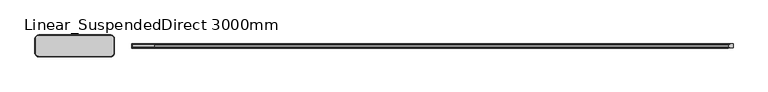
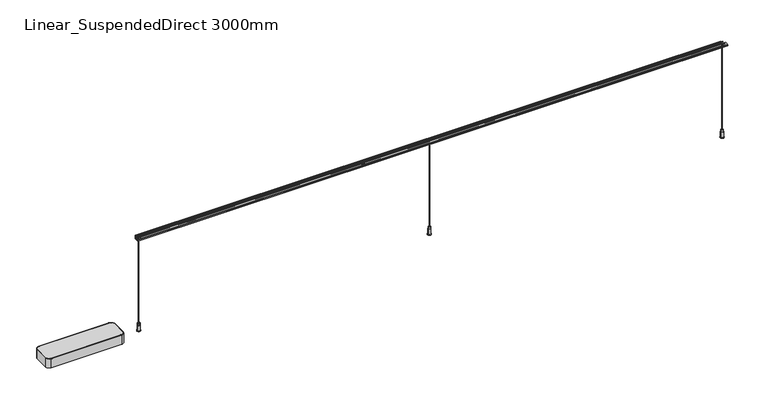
"""IFC4 building model written with IfcOpenShell, lengths in millimetres: light fixture geometry, ARTEMIDE-TurnAround-Linear_SuspendedDirect : Linear_SuspendedDirect 3000mm."""

from ifc_helpers import new_model, si_unit, point, frame, frame_2d, origin, origin_with_axes, place, context, project, spatial, polyline, circle_curve, ellipse_curve, trimmed, segment, composite_curve, outline, extrude, source, transform, mapped, element, save
from ifc_brep_helpers import plane_surface, cylinder_surface, revolved_surface, advanced_brep


def linear_suspendeddirect_3000mm_67b6cb3d(model_context):
    return source(origin(), model_context, "Body", "SolidModel", [
        advanced_brep(
        [(-109.8389602, -55.0879179, 0.0), (-470.1610045, -55.0879179, 0.0), (-490.1610045, -35.0879179, 0.0), (-490.1610045, 35.0879179, 0.0), (-470.1610045, 55.0879179, 0.0), (-109.8389602, 55.0879179, 0.0), (-89.8389602, 35.0879179, 0.0), (-89.8389602, -35.0879179, 0.0), (-109.8389602, -53.0879179, 0.0), (-91.8389602, -35.0879179, 0.0), (-91.8389602, 35.0879179, 0.0), (-109.8389602, 53.0879179, 0.0), (-470.1610045, 53.0879179, 0.0), (-488.1610045, 35.0879179, 0.0), (-488.1610045, -35.0879179, 0.0), (-470.1610045, -53.0879179, 0.0), (-488.1610045, -35.0879179, 50.0), (-470.1610045, -53.0879179, 50.0), (-109.8389602, -53.0879179, 50.0), (-91.8389602, -35.0879179, 50.0), (-91.8389602, 35.0879179, 50.0), (-109.8389602, 53.0879179, 50.0), (-470.1610045, 53.0879179, 50.0), (-488.1610045, 35.0879179, 50.0), (-109.8389602, -55.0879179, 48.0), (-470.1610045, -55.0879179, 48.0), (-490.1610045, -35.0879179, 48.0), (-490.1610045, 35.0879179, 48.0), (-470.1610045, 55.0879179, 48.0), (-109.8389602, 55.0879179, 48.0), (-89.8389602, 35.0879179, 48.0), (-89.8389602, -35.0879179, 48.0), (-109.8389602, -53.0879179, 48.0), (-91.8389602, -35.0879179, 48.0), (-91.8389602, 35.0879179, 48.0), (-109.8389602, 53.0879179, 48.0), (-470.1610045, 53.0879179, 48.0), (-488.1610045, 35.0879179, 48.0), (-488.1610045, -35.0879179, 48.0), (-470.1610045, -53.0879179, 48.0)],
        [
            (0, 1),
            (1, 2, circle_curve(frame((-470.1610045, -35.0879179, 0.0), z_axis=(0.0, 0.0, -1.0), x_axis=(-1.0, 0.0, 0.0)), 20.0)),
            (2, 3),
            (3, 4, circle_curve(frame((-470.1610045, 35.0879179, 0.0), z_axis=(0.0, 0.0, -1.0), x_axis=(-1.0, 0.0, 0.0)), 20.0)),
            (4, 5),
            (5, 6, circle_curve(frame((-109.8389602, 35.0879179, 0.0), z_axis=(0.0, 0.0, -1.0), x_axis=(-1.0, 0.0, 0.0)), 20.0)),
            (6, 7),
            (7, 0, circle_curve(frame((-109.8389602, -35.0879179, 0.0), z_axis=(0.0, 0.0, -1.0), x_axis=(-1.0, 0.0, 0.0)), 20.0)),
            (8, 9, circle_curve(frame((-109.8389602, -35.0879179, 0.0), z_axis=(0.0, 0.0, 1.0), x_axis=(-1.0, 0.0, 0.0)), 18.0)),
            (9, 10),
            (10, 11, circle_curve(frame((-109.8389602, 35.0879179, 0.0), z_axis=(0.0, 0.0, 1.0), x_axis=(-1.0, 0.0, 0.0)), 18.0)),
            (11, 12),
            (12, 13, circle_curve(frame((-470.1610045, 35.0879179, 0.0), z_axis=(0.0, 0.0, 1.0), x_axis=(-1.0, 0.0, 0.0)), 18.0)),
            (13, 14),
            (14, 15, circle_curve(frame((-470.1610045, -35.0879179, 0.0), z_axis=(0.0, 0.0, 1.0), x_axis=(-1.0, 0.0, 0.0)), 18.0)),
            (15, 8),
            (16, 17, circle_curve(frame((-470.1610045, -35.0879179, 50.0), z_axis=(0.0, 0.0, 1.0), x_axis=(-1.0, 0.0, 0.0)), 18.0)),
            (17, 18),
            (18, 19, circle_curve(frame((-109.8389602, -35.0879179, 50.0), z_axis=(0.0, 0.0, 1.0), x_axis=(0.0, -1.0, 0.0)), 18.0)),
            (19, 20),
            (20, 21, circle_curve(frame((-109.8389602, 35.0879179, 50.0), z_axis=(0.0, 0.0, 1.0), x_axis=(1.0, 0.0, 0.0)), 18.0)),
            (21, 22),
            (22, 23, circle_curve(frame((-470.1610045, 35.0879179, 50.0), z_axis=(0.0, 0.0, 1.0), x_axis=(0.0, 1.0, 0.0)), 18.0)),
            (23, 16),
            (0, 24),
            (24, 25),
            (25, 1),
            (2, 26),
            (26, 27),
            (27, 3),
            (4, 28),
            (28, 29),
            (29, 5),
            (6, 30),
            (30, 31),
            (31, 7),
            (25, 26, circle_curve(frame((-470.1610045, -35.0879179, 48.0), z_axis=(0.0, 0.0, -1.0), x_axis=(-1.0, 0.0, 0.0)), 20.0)),
            (27, 28, circle_curve(frame((-470.1610045, 35.0879179, 48.0), z_axis=(0.0, 0.0, -1.0), x_axis=(-1.0, 0.0, 0.0)), 20.0)),
            (29, 30, circle_curve(frame((-109.8389602, 35.0879179, 48.0), z_axis=(0.0, 0.0, -1.0), x_axis=(-1.0, 0.0, 0.0)), 20.0)),
            (31, 24, circle_curve(frame((-109.8389602, -35.0879179, 48.0), z_axis=(0.0, 0.0, -1.0), x_axis=(-1.0, 0.0, 0.0)), 20.0)),
            (8, 32),
            (32, 33, circle_curve(frame((-109.8389602, -35.0879179, 48.0), z_axis=(0.0, 0.0, 1.0), x_axis=(-1.0, 0.0, 0.0)), 18.0)),
            (33, 9),
            (33, 34),
            (34, 10),
            (34, 35, circle_curve(frame((-109.8389602, 35.0879179, 48.0), z_axis=(0.0, 0.0, 1.0), x_axis=(-1.0, 0.0, 0.0)), 18.0)),
            (35, 11),
            (35, 36),
            (36, 12),
            (36, 37, circle_curve(frame((-470.1610045, 35.0879179, 48.0), z_axis=(0.0, 0.0, 1.0), x_axis=(-1.0, 0.0, 0.0)), 18.0)),
            (37, 13),
            (37, 38),
            (38, 14),
            (38, 39, circle_curve(frame((-470.1610045, -35.0879179, 48.0), z_axis=(0.0, 0.0, 1.0), x_axis=(-1.0, 0.0, 0.0)), 18.0)),
            (39, 15),
            (39, 32),
            (25, 17, circle_curve(frame((-470.1610045, -53.0879179, 48.0), z_axis=(-1.0, 0.0, 0.0), x_axis=(0.0, 1.0, 0.0)), 2.0)),
            (16, 26, circle_curve(frame((-488.1610045, -35.0879179, 48.0), z_axis=(0.0, -1.0, 0.0), x_axis=(1.0, 0.0, 0.0)), 2.0)),
            (24, 18, circle_curve(frame((-109.8389602, -53.0879179, 48.0), z_axis=(-1.0, 0.0, 0.0), x_axis=(0.0, 1.0, 0.0)), 2.0)),
            (31, 19, circle_curve(frame((-91.8389602, -35.0879179, 48.0), z_axis=(0.0, -1.0, 0.0), x_axis=(-1.0, 0.0, 0.0)), 2.0)),
            (30, 20, circle_curve(frame((-91.8389602, 35.0879179, 48.0), z_axis=(0.0, -1.0, 0.0), x_axis=(-1.0, 0.0, 0.0)), 2.0)),
            (29, 21, circle_curve(frame((-109.8389602, 53.0879179, 48.0), z_axis=(1.0, 0.0, 0.0), x_axis=(0.0, -1.0, 0.0)), 2.0)),
            (28, 22, circle_curve(frame((-470.1610045, 53.0879179, 48.0), z_axis=(1.0, 0.0, 0.0), x_axis=(0.0, -1.0, 0.0)), 2.0)),
            (27, 23, circle_curve(frame((-488.1610045, 35.0879179, 48.0), z_axis=(0.0, 1.0, 0.0), x_axis=(1.0, 0.0, 0.0)), 2.0)),
        ],
        [
            plane_surface(frame((-470.1610045, -55.0879179, 0.0), z_axis=(0.0, 0.0, -1.0), x_axis=(-1.0, 0.0, 0.0))),
            plane_surface(frame((-470.1610045, -55.0879179, 50.0), z_axis=(0.0, 0.0, 1.0), x_axis=(1.0, 0.0, 0.0))),
            plane_surface(frame((-109.8389602, -55.0879179, 0.0), z_axis=(0.0, -1.0, 0.0), x_axis=(0.0, 0.0, 1.0))),
            plane_surface(frame((-490.1610045, -35.0879179, 0.0), z_axis=(-1.0, 0.0, 0.0), x_axis=(0.0, 0.0, 1.0))),
            plane_surface(frame((-470.1610045, 55.0879179, 0.0), z_axis=(0.0, 1.0, 0.0), x_axis=(0.0, 0.0, 1.0))),
            plane_surface(frame((-89.8389602, 35.0879179, 0.0), z_axis=(1.0, 0.0, 0.0), x_axis=(0.0, 0.0, 1.0))),
            cylinder_surface(frame((-470.1610045, -35.0879179, 50.0), z_axis=(0.0, 0.0, -1.0), x_axis=(-1.0, 0.0, 0.0)), 20.0),
            cylinder_surface(frame((-470.1610045, 35.0879179, 50.0), z_axis=(0.0, 0.0, -1.0), x_axis=(-1.0, 0.0, 0.0)), 20.0),
            cylinder_surface(frame((-109.8389602, 35.0879179, 50.0), z_axis=(0.0, 0.0, -1.0), x_axis=(-1.0, 0.0, 0.0)), 20.0),
            cylinder_surface(frame((-109.8389602, -35.0879179, 50.0), z_axis=(0.0, 0.0, -1.0), x_axis=(-1.0, 0.0, 0.0)), 20.0),
            revolved_surface(polyline([(-127.8389602, -35.0879179, 48.0), (-127.8389602, -35.0879179, 0.0)]), (-109.8389602, -35.0879179, 0.0), (0.0, 0.0, 1.0)),
            plane_surface(frame((-91.8389602, -35.0879179, 0.0), z_axis=(-1.0, 0.0, 0.0), x_axis=(0.0, 0.0, 1.0))),
            revolved_surface(polyline([(-127.8389602, 35.0879179, 48.0), (-127.8389602, 35.0879179, 0.0)]), (-109.8389602, 35.0879179, 0.0), (0.0, 0.0, 1.0)),
            plane_surface(frame((-109.8389602, 53.0879179, 0.0), z_axis=(0.0, -1.0, 0.0), x_axis=(0.0, 0.0, 1.0))),
            revolved_surface(polyline([(-488.1610045, 35.0879179, 48.0), (-488.1610045, 35.0879179, 0.0)]), (-470.1610045, 35.0879179, 0.0), (0.0, 0.0, 1.0)),
            plane_surface(frame((-488.1610045, 35.0879179, 0.0), z_axis=(1.0, 0.0, 0.0), x_axis=(0.0, 0.0, 1.0))),
            revolved_surface(polyline([(-488.1610045, -35.0879179, 48.0), (-488.1610045, -35.0879179, 0.0)]), (-470.1610045, -35.0879179, 0.0), (0.0, 0.0, 1.0)),
            plane_surface(frame((-470.1610045, -53.0879179, 0.0), z_axis=(0.0, 1.0, 0.0), x_axis=(0.0, 0.0, 1.0))),
            plane_surface(frame((-470.1610045, -55.0879179, 48.0), z_axis=(0.0, 0.0, -1.0), x_axis=(-1.0, 0.0, 0.0))),
            revolved_surface(trimmed(ellipse_curve(frame((-488.1610045, -35.0879179, 48.0), z_axis=(0.0, 1.0, 0.0), x_axis=(1.0, 0.0, 0.0)), 2.0, 2.0), [point((-490.1610045, -35.0879179, 48.0))], [point((-488.1610045, -35.0879179, 50.0))], True, "CARTESIAN"), (-470.1610045, -35.0879179, 50.0), (0.0, 0.0, 1.0)),
            cylinder_surface(frame((-470.1610045, -53.0879179, 48.0), z_axis=(1.0, 0.0, 0.0), x_axis=(0.0, 1.0, 0.0)), 2.0),
            revolved_surface(trimmed(ellipse_curve(frame((-109.8389602, -53.0879179, 48.0), z_axis=(-1.0, 0.0, 0.0), x_axis=(0.0, 1.0, 0.0)), 2.0, 2.0), [point((-109.8389602, -55.0879179, 48.0))], [point((-109.8389602, -53.0879179, 50.0))], True, "CARTESIAN"), (-109.8389602, -35.0879179, 50.0), (0.0, 0.0, 1.0)),
            cylinder_surface(frame((-91.8389602, -35.0879179, 48.0), z_axis=(0.0, 1.0, 0.0), x_axis=(-1.0, 0.0, 0.0)), 2.0),
            revolved_surface(trimmed(ellipse_curve(frame((-91.8389602, 35.0879179, 48.0), z_axis=(0.0, -1.0, 0.0), x_axis=(-1.0, 0.0, 0.0)), 2.0, 2.0), [point((-89.8389602, 35.0879179, 48.0))], [point((-91.8389602, 35.0879179, 50.0))], True, "CARTESIAN"), (-109.8389602, 35.0879179, 50.0), (0.0, 0.0, 1.0)),
            cylinder_surface(frame((-109.8389602, 53.0879179, 48.0), z_axis=(-1.0, 0.0, 0.0), x_axis=(0.0, -1.0, 0.0)), 2.0),
            revolved_surface(trimmed(ellipse_curve(frame((-470.1610045, 53.0879179, 48.0), z_axis=(1.0, 0.0, 0.0), x_axis=(0.0, -1.0, 0.0)), 2.0, 2.0), [point((-470.1610045, 55.0879179, 48.0))], [point((-470.1610045, 53.0879179, 50.0))], True, "CARTESIAN"), (-470.1610045, 35.0879179, 50.0), (0.0, 0.0, 1.0)),
            cylinder_surface(frame((-488.1610045, 35.0879179, 48.0), z_axis=(0.0, -1.0, 0.0), x_axis=(1.0, 0.0, 0.0)), 2.0),
        ],
        [
            (0, [[1, 2, 3, 4, 5, 6, 7, 8], [9, 10, 11, 12, 13, 14, 15, 16]]),
            (1, [[17, 18, 19, 20, 21, 22, 23, 24]]),
            (2, [[-1, 25, 26, 27]]),
            (3, [[-3, 28, 29, 30]]),
            (4, [[-5, 31, 32, 33]]),
            (5, [[-7, 34, 35, 36]]),
            (6, [[-2, -27, 37, -28]]),
            (7, [[-4, -30, 38, -31]]),
            (8, [[-6, -33, 39, -34]]),
            (9, [[-8, -36, 40, -25]]),
            (10, [[-9, 41, 42, 43]]),
            (11, [[-10, -43, 44, 45]]),
            (12, [[-11, -45, 46, 47]]),
            (13, [[-12, -47, 48, 49]]),
            (14, [[-13, -49, 50, 51]]),
            (15, [[-14, -51, 52, 53]]),
            (16, [[-15, -53, 54, 55]]),
            (17, [[-16, -55, 56, -41]]),
            (18, [[-42, -56, -54, -52, -50, -48, -46, -44]]),
            (19, [[57, -17, 58, -37]]),
            (20, [[-57, -26, 59, -18]]),
            (21, [[-59, -40, 60, -19]]),
            (22, [[-60, -35, 61, -20]]),
            (23, [[-61, -39, 62, -21]]),
            (24, [[-62, -32, 63, -22]]),
            (25, [[-63, -38, 64, -23]]),
            (26, [[-58, -24, -64, -29]]),
        ],
    ),
        extrude(outline(polyline([(110.0, 6.3498693), (110.0, -6.3499287), (0.0, -6.3499287), (0.0, 6.3498693), (110.0, 6.3498693)])), frame((0.0, 0.0, 501.1503638), z_axis=(0.0, 0.0, 1.0), x_axis=(1.0, 0.0, 0.0)), (0.0, 0.0, 1.0), 10.8496362),
        extrude(outline(composite_curve([segment(polyline([(9.9996331, 500.9503638), (9.9996331, 511.4002115), (7.9680122, 511.4001219), (7.9680122, 510.400149), (7.1680122, 510.400149), (7.1680122, 511.2500635), (6.3498693, 511.2500635), (6.3498693, 512.5), (11.0170651, 512.5), (11.0170651, 502.1565084)]), True, "CONTINUOUS"), segment(trimmed(circle_curve(frame_2d((18.0138248, 500.1749675)), 7.2719427), [point((11.0170651, 502.1565084))], [point((11.0170651, 498.1934267))], True, "CARTESIAN"), True, "CONTINUOUS"), segment(polyline([(11.0170651, 498.1934267), (11.0170651, 494.2003595), (10.000004, 494.2003595), (10.000004, 496.2003645), (6.3499287, 496.2003645), (6.3499287, 497.4503421), (9.4999904, 497.4503421), (9.4999904, 499.500364), (-9.4999904, 499.500364), (-9.4999904, 497.4503421), (-6.3499287, 497.4503421), (-6.3499287, 496.2003645), (-10.000004, 496.2003645), (-10.000004, 494.2003595), (-11.0170651, 494.2003595), (-11.0170651, 498.1934267)]), True, "CONTINUOUS"), segment(trimmed(circle_curve(frame_2d((-18.0138248, 500.1749675)), 7.2719427), [point((-11.0170651, 498.1934267))], [point((-11.0170651, 502.1565084))], True, "CARTESIAN"), True, "CONTINUOUS"), segment(polyline([(-11.0170651, 502.1565084), (-11.0170651, 512.5), (-6.3498693, 512.5), (-6.3498693, 511.2500635), (-7.1680122, 511.2500635), (-7.1680122, 510.400149), (-7.9680122, 510.400149), (-7.9680122, 511.4001219), (-9.9996331, 511.4002115), (-9.9996331, 500.9503638), (-7.9680122, 500.9503638), (-7.9680122, 501.9503638), (-7.1680122, 501.9503638), (-7.1680122, 501.1503638), (7.1680122, 501.1503638), (7.1680122, 501.9503638), (7.9680122, 501.9503638), (7.9680122, 500.9503638), (9.9996331, 500.9503638)]), True, "CONTINUOUS")], self_intersect=False)), frame((0.0, 0.0, 0.0), z_axis=(1.0, 0.0, 0.0), x_axis=(0.0, 1.0, 0.0)), (0.0, 0.0, 1.0), 3000.0),
        extrude(outline(polyline([(511.2500635, 3003.6635812), (511.2500635, 2996.3364188), (510.4109032, 2991.5773043), (502.004045, 2991.5773043), (501.1503638, 2996.418771), (501.1503638, 3003.581229), (502.004045, 3008.4226957), (510.3818614, 3008.4226957), (511.2500635, 3003.6635812)])), frame((0.0, -10.0, 0.0), z_axis=(0.0, 1.0, 0.0), x_axis=(0.0, 0.0, 1.0)), (0.0, 0.0, 1.0), 1.3991753),
        extrude(outline(composite_curve([segment(trimmed(circle_curve(frame_2d((10.0, 0.0)), 1.0), [point((11.0, 0.0))], [point((9.0, 0.0))], False, "CARTESIAN"), True, "CONTINUOUS"), segment(trimmed(circle_curve(frame_2d((10.0, 0.0)), 1.0), [point((9.0, 0.0))], [point((11.0, 0.0))], False, "CARTESIAN"), True, "CONTINUOUS")], self_intersect=False)), origin_with_axes(), (0.0, 0.0, 1.0), 500.0),
        advanced_brep(
        [(9.0, 0.0, 41.0209548), (11.0, 0.0, 41.0209548), (15.8902255, 0.0, 41.0209548), (4.1097745, 0.0, 41.0209548), (9.0, 0.0, 0.0), (11.0, 0.0, 0.0), (1.0476301, 0.0, 0.0), (18.9523699, 0.0, 0.0), (1.0476301, 0.0, 2.0209548), (18.9523699, 0.0, 2.0209548), (3.0476301, 0.0, 2.0209548), (16.9523699, 0.0, 2.0209548), (3.0476301, 0.0, 30.9721976), (16.9523699, 0.0, 30.9721976), (4.1097745, 0.0, 30.9721976), (15.8902255, 0.0, 30.9721976)],
        [
            (0, 1, circle_curve(frame((10.0, 0.0, 41.0209548), z_axis=(0.0, 0.0, -1.0), x_axis=(1.0, 0.0, 0.0)), 1.0)),
            (1, 2),
            (2, 3, circle_curve(frame((10.0, 0.0, 41.0209548), z_axis=(0.0, 0.0, 1.0), x_axis=(1.0, 0.0, 0.0)), 5.8902255)),
            (3, 0),
            (1, 0, circle_curve(frame((10.0, 0.0, 41.0209548), z_axis=(0.0, 0.0, -1.0), x_axis=(1.0, 0.0, 0.0)), 1.0)),
            (3, 2, circle_curve(frame((10.0, 0.0, 41.0209548), z_axis=(0.0, 0.0, 1.0), x_axis=(1.0, 0.0, 0.0)), 5.8902255)),
            (4, 5, circle_curve(frame((10.0, 0.0, 0.0), z_axis=(0.0, 0.0, -1.0), x_axis=(1.0, 0.0, 0.0)), 1.0)),
            (5, 1),
            (0, 4),
            (5, 4, circle_curve(frame((10.0, 0.0, 0.0), z_axis=(0.0, 0.0, -1.0), x_axis=(1.0, 0.0, 0.0)), 1.0)),
            (6, 7, circle_curve(frame((10.0, 0.0, 0.0), z_axis=(0.0, 0.0, -1.0), x_axis=(1.0, 0.0, 0.0)), 8.9523699)),
            (7, 5),
            (4, 6),
            (7, 6, circle_curve(frame((10.0, 0.0, 0.0), z_axis=(0.0, 0.0, -1.0), x_axis=(1.0, 0.0, 0.0)), 8.9523699)),
            (8, 9, circle_curve(frame((10.0, 0.0, 2.0209548), z_axis=(0.0, 0.0, -1.0), x_axis=(1.0, 0.0, 0.0)), 8.9523699)),
            (9, 7),
            (6, 8),
            (9, 8, circle_curve(frame((10.0, 0.0, 2.0209548), z_axis=(0.0, 0.0, -1.0), x_axis=(1.0, 0.0, 0.0)), 8.9523699)),
            (10, 11, circle_curve(frame((10.0, 0.0, 2.0209548), z_axis=(0.0, 0.0, -1.0), x_axis=(1.0, 0.0, 0.0)), 6.9523699)),
            (11, 9),
            (8, 10),
            (11, 10, circle_curve(frame((10.0, 0.0, 2.0209548), z_axis=(0.0, 0.0, -1.0), x_axis=(1.0, 0.0, 0.0)), 6.9523699)),
            (12, 13, circle_curve(frame((10.0, 0.0, 30.9721976), z_axis=(0.0, 0.0, -1.0), x_axis=(1.0, 0.0, 0.0)), 6.9523699)),
            (13, 11),
            (10, 12),
            (13, 12, circle_curve(frame((10.0, 0.0, 30.9721976), z_axis=(0.0, 0.0, -1.0), x_axis=(1.0, 0.0, 0.0)), 6.9523699)),
            (14, 15, circle_curve(frame((10.0, 0.0, 30.9721976), z_axis=(0.0, 0.0, -1.0), x_axis=(1.0, 0.0, 0.0)), 5.8902255)),
            (15, 13),
            (12, 14),
            (15, 14, circle_curve(frame((10.0, 0.0, 30.9721976), z_axis=(0.0, 0.0, -1.0), x_axis=(1.0, 0.0, 0.0)), 5.8902255)),
            (2, 15),
            (14, 3),
        ],
        [
            plane_surface(frame((10.0, 0.0, 41.0209548), z_axis=(0.0, 0.0, 1.0), x_axis=(1.0, 0.0, 0.0))),
            revolved_surface(polyline([(11.0, 0.0, 41.02095480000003), (11.0, 0.0, 0.0)]), (10.0, 0.0, 391.16642), (0.0, 0.0, 1.0)),
            plane_surface(frame((10.0, 0.0, 0.0), z_axis=(0.0, 0.0, -1.0), x_axis=(1.0, 0.0, 0.0))),
            cylinder_surface(frame((10.0, 0.0, 391.16642), z_axis=(0.0, 0.0, 1.0), x_axis=(1.0, 0.0, 0.0)), 8.9523699),
            plane_surface(frame((10.0, 0.0, 2.0209548), z_axis=(0.0, 0.0, 1.0), x_axis=(1.0, 0.0, 0.0))),
            cylinder_surface(frame((10.0, 0.0, 391.16642), z_axis=(0.0, 0.0, 1.0), x_axis=(1.0, 0.0, 0.0)), 6.9523699),
            plane_surface(frame((10.0, 0.0, 30.9721976), z_axis=(0.0, 0.0, 1.0), x_axis=(1.0, 0.0, 0.0))),
            cylinder_surface(frame((10.0, 0.0, 391.16642), z_axis=(0.0, 0.0, 1.0), x_axis=(1.0, 0.0, 0.0)), 5.8902255),
        ],
        [
            (0, [[1, 2, 3, 4]]),
            (0, [[5, -4, 6, -2]]),
            (1, [[7, 8, -1, 9]]),
            (1, [[10, -9, -5, -8]]),
            (2, [[11, 12, -7, 13]]),
            (2, [[14, -13, -10, -12]]),
            (3, [[15, 16, -11, 17]]),
            (3, [[18, -17, -14, -16]]),
            (4, [[19, 20, -15, 21]]),
            (4, [[22, -21, -18, -20]]),
            (5, [[23, 24, -19, 25]]),
            (5, [[26, -25, -22, -24]]),
            (6, [[27, 28, -23, 29]]),
            (6, [[30, -29, -26, -28]]),
            (7, [[-3, 31, -27, 32]]),
            (7, [[-6, -32, -30, -31]]),
        ],
    ),
        extrude(outline(polyline([(2975.0, -9.5), (2975.0, 9.5), (3025.0, 9.5), (3025.0, -9.5), (2975.0, -9.5)])), frame((0.0, 0.0, 494.2), z_axis=(0.0, 0.0, 1.0), x_axis=(1.0, 0.0, 0.0)), (0.0, 0.0, 1.0), 2.0),
        extrude(outline(polyline([(1490.0, -9.5), (1490.0, 9.5), (1510.0, 9.5), (1510.0, -9.5), (1490.0, -9.5)])), frame((0.0, 0.0, 494.2), z_axis=(0.0, 0.0, 1.0), x_axis=(1.0, 0.0, 0.0)), (0.0, 0.0, 1.0), 2.0),
        extrude(outline(polyline([(0.0, -9.5), (0.0, 9.5), (20.0, 9.5), (20.0, -9.5), (0.0, -9.5)])), frame((0.0, 0.0, 494.2), z_axis=(0.0, 0.0, 1.0), x_axis=(1.0, 0.0, 0.0)), (0.0, 0.0, 1.0), 2.0),
        extrude(outline(composite_curve([segment(trimmed(circle_curve(frame_2d((3000.0, 0.0)), 1.0), [point((3001.0, 0.0))], [point((2999.0, 0.0))], False, "CARTESIAN"), True, "CONTINUOUS"), segment(trimmed(circle_curve(frame_2d((3000.0, 0.0)), 1.0), [point((2999.0, 0.0))], [point((3001.0, 0.0))], False, "CARTESIAN"), True, "CONTINUOUS")], self_intersect=False)), origin_with_axes(), (0.0, 0.0, 1.0), 500.0),
        extrude(outline(composite_curve([segment(trimmed(circle_curve(frame_2d((1500.0, 0.0)), 1.0), [point((1501.0, 0.0))], [point((1499.0, 0.0))], False, "CARTESIAN"), True, "CONTINUOUS"), segment(trimmed(circle_curve(frame_2d((1500.0, 0.0)), 1.0), [point((1499.0, 0.0))], [point((1501.0, 0.0))], False, "CARTESIAN"), True, "CONTINUOUS")], self_intersect=False)), origin_with_axes(), (0.0, 0.0, 1.0), 500.0),
        advanced_brep(
        [(2999.0, 0.0, 41.0209548), (3001.0, 0.0, 41.0209548), (3005.8902255, 0.0, 41.0209548), (2994.1097745, 0.0, 41.0209548), (2999.0, 0.0, 0.0), (3001.0, 0.0, 0.0), (2991.0476301, 0.0, 0.0), (3008.9523699, 0.0, 0.0), (2991.0476301, 0.0, 2.0209548), (3008.9523699, 0.0, 2.0209548), (2993.0476301, 0.0, 2.0209548), (3006.9523699, 0.0, 2.0209548), (2993.0476301, 0.0, 30.9721976), (3006.9523699, 0.0, 30.9721976), (2994.1097745, 0.0, 30.9721976), (3005.8902255, 0.0, 30.9721976)],
        [
            (0, 1, circle_curve(frame((3000.0, 0.0, 41.0209548), z_axis=(0.0, 0.0, -1.0), x_axis=(1.0, 0.0, 0.0)), 1.0)),
            (1, 2),
            (2, 3, circle_curve(frame((3000.0, 0.0, 41.0209548), z_axis=(0.0, 0.0, 1.0), x_axis=(1.0, 0.0, 0.0)), 5.8902255)),
            (3, 0),
            (1, 0, circle_curve(frame((3000.0, 0.0, 41.0209548), z_axis=(0.0, 0.0, -1.0), x_axis=(1.0, 0.0, 0.0)), 1.0)),
            (3, 2, circle_curve(frame((3000.0, 0.0, 41.0209548), z_axis=(0.0, 0.0, 1.0), x_axis=(1.0, 0.0, 0.0)), 5.8902255)),
            (4, 5, circle_curve(frame((3000.0, 0.0, 0.0), z_axis=(0.0, 0.0, -1.0), x_axis=(1.0, 0.0, 0.0)), 1.0)),
            (5, 1),
            (0, 4),
            (5, 4, circle_curve(frame((3000.0, 0.0, 0.0), z_axis=(0.0, 0.0, -1.0), x_axis=(1.0, 0.0, 0.0)), 1.0)),
            (6, 7, circle_curve(frame((3000.0, 0.0, 0.0), z_axis=(0.0, 0.0, -1.0), x_axis=(1.0, 0.0, 0.0)), 8.9523699)),
            (7, 5),
            (4, 6),
            (7, 6, circle_curve(frame((3000.0, 0.0, 0.0), z_axis=(0.0, 0.0, -1.0), x_axis=(1.0, 0.0, 0.0)), 8.9523699)),
            (8, 9, circle_curve(frame((3000.0, 0.0, 2.0209548), z_axis=(0.0, 0.0, -1.0), x_axis=(1.0, 0.0, 0.0)), 8.9523699)),
            (9, 7),
            (6, 8),
            (9, 8, circle_curve(frame((3000.0, 0.0, 2.0209548), z_axis=(0.0, 0.0, -1.0), x_axis=(1.0, 0.0, 0.0)), 8.9523699)),
            (10, 11, circle_curve(frame((3000.0, 0.0, 2.0209548), z_axis=(0.0, 0.0, -1.0), x_axis=(1.0, 0.0, 0.0)), 6.9523699)),
            (11, 9),
            (8, 10),
            (11, 10, circle_curve(frame((3000.0, 0.0, 2.0209548), z_axis=(0.0, 0.0, -1.0), x_axis=(1.0, 0.0, 0.0)), 6.9523699)),
            (12, 13, circle_curve(frame((3000.0, 0.0, 30.9721976), z_axis=(0.0, 0.0, -1.0), x_axis=(1.0, 0.0, 0.0)), 6.9523699)),
            (13, 11),
            (10, 12),
            (13, 12, circle_curve(frame((3000.0, 0.0, 30.9721976), z_axis=(0.0, 0.0, -1.0), x_axis=(1.0, 0.0, 0.0)), 6.9523699)),
            (14, 15, circle_curve(frame((3000.0, 0.0, 30.9721976), z_axis=(0.0, 0.0, -1.0), x_axis=(1.0, 0.0, 0.0)), 5.8902255)),
            (15, 13),
            (12, 14),
            (15, 14, circle_curve(frame((3000.0, 0.0, 30.9721976), z_axis=(0.0, 0.0, -1.0), x_axis=(1.0, 0.0, 0.0)), 5.8902255)),
            (2, 15),
            (14, 3),
        ],
        [
            plane_surface(frame((3000.0, 0.0, 41.0209548), z_axis=(0.0, 0.0, 1.0), x_axis=(1.0, 0.0, 0.0))),
            revolved_surface(polyline([(3001.0, 0.0, 41.02095480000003), (3001.0, 0.0, 0.0)]), (3000.0, 0.0, 391.16642), (0.0, 0.0, 1.0)),
            plane_surface(frame((3000.0, 0.0, 0.0), z_axis=(0.0, 0.0, -1.0), x_axis=(1.0, 0.0, 0.0))),
            cylinder_surface(frame((3000.0, 0.0, 391.16642), z_axis=(0.0, 0.0, 1.0), x_axis=(1.0, 0.0, 0.0)), 8.9523699),
            plane_surface(frame((3000.0, 0.0, 2.0209548), z_axis=(0.0, 0.0, 1.0), x_axis=(1.0, 0.0, 0.0))),
            cylinder_surface(frame((3000.0, 0.0, 391.16642), z_axis=(0.0, 0.0, 1.0), x_axis=(1.0, 0.0, 0.0)), 6.9523699),
            plane_surface(frame((3000.0, 0.0, 30.9721976), z_axis=(0.0, 0.0, 1.0), x_axis=(1.0, 0.0, 0.0))),
            cylinder_surface(frame((3000.0, 0.0, 391.16642), z_axis=(0.0, 0.0, 1.0), x_axis=(1.0, 0.0, 0.0)), 5.8902255),
        ],
        [
            (0, [[1, 2, 3, 4]]),
            (0, [[5, -4, 6, -2]]),
            (1, [[7, 8, -1, 9]]),
            (1, [[10, -9, -5, -8]]),
            (2, [[11, 12, -7, 13]]),
            (2, [[14, -13, -10, -12]]),
            (3, [[15, 16, -11, 17]]),
            (3, [[18, -17, -14, -16]]),
            (4, [[19, 20, -15, 21]]),
            (4, [[22, -21, -18, -20]]),
            (5, [[23, 24, -19, 25]]),
            (5, [[26, -25, -22, -24]]),
            (6, [[27, 28, -23, 29]]),
            (6, [[30, -29, -26, -28]]),
            (7, [[-3, 31, -27, 32]]),
            (7, [[-6, -32, -30, -31]]),
        ],
    ),
        advanced_brep(
        [(1499.0, 0.0, 41.0209548), (1501.0, 0.0, 41.0209548), (1505.8902255, 0.0, 41.0209548), (1494.1097745, 0.0, 41.0209548), (1499.0, 0.0, 0.0), (1501.0, 0.0, 0.0), (1491.0476301, 0.0, 0.0), (1508.9523699, 0.0, 0.0), (1491.0476301, 0.0, 2.0209548), (1508.9523699, 0.0, 2.0209548), (1493.0476301, 0.0, 2.0209548), (1506.9523699, 0.0, 2.0209548), (1493.0476301, 0.0, 30.9721976), (1506.9523699, 0.0, 30.9721976), (1494.1097745, 0.0, 30.9721976), (1505.8902255, 0.0, 30.9721976)],
        [
            (0, 1, circle_curve(frame((1500.0, 0.0, 41.0209548), z_axis=(0.0, 0.0, -1.0), x_axis=(1.0, 0.0, 0.0)), 1.0)),
            (1, 2),
            (2, 3, circle_curve(frame((1500.0, 0.0, 41.0209548), z_axis=(0.0, 0.0, 1.0), x_axis=(1.0, 0.0, 0.0)), 5.8902255)),
            (3, 0),
            (1, 0, circle_curve(frame((1500.0, 0.0, 41.0209548), z_axis=(0.0, 0.0, -1.0), x_axis=(1.0, 0.0, 0.0)), 1.0)),
            (3, 2, circle_curve(frame((1500.0, 0.0, 41.0209548), z_axis=(0.0, 0.0, 1.0), x_axis=(1.0, 0.0, 0.0)), 5.8902255)),
            (4, 5, circle_curve(frame((1500.0, 0.0, 0.0), z_axis=(0.0, 0.0, -1.0), x_axis=(1.0, 0.0, 0.0)), 1.0)),
            (5, 1),
            (0, 4),
            (5, 4, circle_curve(frame((1500.0, 0.0, 0.0), z_axis=(0.0, 0.0, -1.0), x_axis=(1.0, 0.0, 0.0)), 1.0)),
            (6, 7, circle_curve(frame((1500.0, 0.0, 0.0), z_axis=(0.0, 0.0, -1.0), x_axis=(1.0, 0.0, 0.0)), 8.9523699)),
            (7, 5),
            (4, 6),
            (7, 6, circle_curve(frame((1500.0, 0.0, 0.0), z_axis=(0.0, 0.0, -1.0), x_axis=(1.0, 0.0, 0.0)), 8.9523699)),
            (8, 9, circle_curve(frame((1500.0, 0.0, 2.0209548), z_axis=(0.0, 0.0, -1.0), x_axis=(1.0, 0.0, 0.0)), 8.9523699)),
            (9, 7),
            (6, 8),
            (9, 8, circle_curve(frame((1500.0, 0.0, 2.0209548), z_axis=(0.0, 0.0, -1.0), x_axis=(1.0, 0.0, 0.0)), 8.9523699)),
            (10, 11, circle_curve(frame((1500.0, 0.0, 2.0209548), z_axis=(0.0, 0.0, -1.0), x_axis=(1.0, 0.0, 0.0)), 6.9523699)),
            (11, 9),
            (8, 10),
            (11, 10, circle_curve(frame((1500.0, 0.0, 2.0209548), z_axis=(0.0, 0.0, -1.0), x_axis=(1.0, 0.0, 0.0)), 6.9523699)),
            (12, 13, circle_curve(frame((1500.0, 0.0, 30.9721976), z_axis=(0.0, 0.0, -1.0), x_axis=(1.0, 0.0, 0.0)), 6.9523699)),
            (13, 11),
            (10, 12),
            (13, 12, circle_curve(frame((1500.0, 0.0, 30.9721976), z_axis=(0.0, 0.0, -1.0), x_axis=(1.0, 0.0, 0.0)), 6.9523699)),
            (14, 15, circle_curve(frame((1500.0, 0.0, 30.9721976), z_axis=(0.0, 0.0, -1.0), x_axis=(1.0, 0.0, 0.0)), 5.8902255)),
            (15, 13),
            (12, 14),
            (15, 14, circle_curve(frame((1500.0, 0.0, 30.9721976), z_axis=(0.0, 0.0, -1.0), x_axis=(1.0, 0.0, 0.0)), 5.8902255)),
            (2, 15),
            (14, 3),
        ],
        [
            plane_surface(frame((1500.0, 0.0, 41.0209548), z_axis=(0.0, 0.0, 1.0), x_axis=(1.0, 0.0, 0.0))),
            revolved_surface(polyline([(1501.0, 0.0, 41.02095480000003), (1501.0, 0.0, 0.0)]), (1500.0, 0.0, 391.16642), (0.0, 0.0, 1.0)),
            plane_surface(frame((1500.0, 0.0, 0.0), z_axis=(0.0, 0.0, -1.0), x_axis=(1.0, 0.0, 0.0))),
            cylinder_surface(frame((1500.0, 0.0, 391.16642), z_axis=(0.0, 0.0, 1.0), x_axis=(1.0, 0.0, 0.0)), 8.9523699),
            plane_surface(frame((1500.0, 0.0, 2.0209548), z_axis=(0.0, 0.0, 1.0), x_axis=(1.0, 0.0, 0.0))),
            cylinder_surface(frame((1500.0, 0.0, 391.16642), z_axis=(0.0, 0.0, 1.0), x_axis=(1.0, 0.0, 0.0)), 6.9523699),
            plane_surface(frame((1500.0, 0.0, 30.9721976), z_axis=(0.0, 0.0, 1.0), x_axis=(1.0, 0.0, 0.0))),
            cylinder_surface(frame((1500.0, 0.0, 391.16642), z_axis=(0.0, 0.0, 1.0), x_axis=(1.0, 0.0, 0.0)), 5.8902255),
        ],
        [
            (0, [[1, 2, 3, 4]]),
            (0, [[5, -4, 6, -2]]),
            (1, [[7, 8, -1, 9]]),
            (1, [[10, -9, -5, -8]]),
            (2, [[11, 12, -7, 13]]),
            (2, [[14, -13, -10, -12]]),
            (3, [[15, 16, -11, 17]]),
            (3, [[18, -17, -14, -16]]),
            (4, [[19, 20, -15, 21]]),
            (4, [[22, -21, -18, -20]]),
            (5, [[23, 24, -19, 25]]),
            (5, [[26, -25, -22, -24]]),
            (6, [[27, 28, -23, 29]]),
            (6, [[30, -29, -26, -28]]),
            (7, [[-3, 31, -27, 32]]),
            (7, [[-6, -32, -30, -31]]),
        ],
    ),
        extrude(outline(polyline([(3025.0, -9.5), (2975.0, -9.5), (2975.0, 9.5), (3025.0, 9.5), (3025.0, -9.5)])), frame((0.0, 0.0, 497.4503421), z_axis=(0.0, 0.0, 1.0), x_axis=(1.0, 0.0, 0.0)), (0.0, 0.0, 1.0), 2.0496579),
        extrude(outline(polyline([(1510.0, -9.5), (1490.0, -9.5), (1490.0, 9.5), (1510.0, 9.5), (1510.0, -9.5)])), frame((0.0, 0.0, 497.4503421), z_axis=(0.0, 0.0, 1.0), x_axis=(1.0, 0.0, 0.0)), (0.0, 0.0, 1.0), 2.0496579),
        extrude(outline(polyline([(20.0, -9.5), (0.0, -9.5), (0.0, 9.5), (20.0, 9.5), (20.0, -9.5)])), frame((0.0, 0.0, 497.4503421), z_axis=(0.0, 0.0, 1.0), x_axis=(1.0, 0.0, 0.0)), (0.0, 0.0, 1.0), 2.0496579),
        extrude(outline(composite_curve([segment(trimmed(circle_curve(frame_2d((7.4508247, 504.1003638)), 1.15), [point((8.6008247, 504.1003638))], [point((6.3008247, 504.1003638))], False, "CARTESIAN"), True, "CONTINUOUS"), segment(trimmed(circle_curve(frame_2d((7.4508247, 504.1003638)), 1.15), [point((6.3008247, 504.1003638))], [point((8.6008247, 504.1003638))], False, "CARTESIAN"), True, "CONTINUOUS")], self_intersect=False)), frame((0.0, 0.0, 0.0), z_axis=(1.0, 0.0, 0.0), x_axis=(0.0, 1.0, 0.0)), (0.0, 0.0, 1.0), 3000.0),
        extrude(outline(composite_curve([segment(trimmed(circle_curve(frame_2d((7.4508247, 508.2502732)), 1.15), [point((8.6008247, 508.2502732))], [point((6.3008247, 508.2502732))], False, "CARTESIAN"), True, "CONTINUOUS"), segment(trimmed(circle_curve(frame_2d((7.4508247, 508.2502732)), 1.15), [point((6.3008247, 508.2502732))], [point((8.6008247, 508.2502732))], False, "CARTESIAN"), True, "CONTINUOUS")], self_intersect=False)), frame((0.0, 0.0, 0.0), z_axis=(1.0, 0.0, 0.0), x_axis=(0.0, 1.0, 0.0)), (0.0, 0.0, 1.0), 3000.0),
        extrude(outline(composite_curve([segment(trimmed(circle_curve(frame_2d((-7.4508247, 504.1003638)), 1.15), [point((-8.6008247, 504.1003638))], [point((-6.3008247, 504.1003638))], False, "CARTESIAN"), True, "CONTINUOUS"), segment(trimmed(circle_curve(frame_2d((-7.4508247, 504.1003638)), 1.15), [point((-6.3008247, 504.1003638))], [point((-8.6008247, 504.1003638))], False, "CARTESIAN"), True, "CONTINUOUS")], self_intersect=False)), frame((0.0, 0.0, 0.0), z_axis=(1.0, 0.0, 0.0), x_axis=(0.0, 1.0, 0.0)), (0.0, 0.0, 1.0), 3000.0),
        extrude(outline(composite_curve([segment(trimmed(circle_curve(frame_2d((-7.4508247, 508.2502732)), 1.15), [point((-8.6008247, 508.2502732))], [point((-6.3008247, 508.2502732))], False, "CARTESIAN"), True, "CONTINUOUS"), segment(trimmed(circle_curve(frame_2d((-7.4508247, 508.2502732)), 1.15), [point((-6.3008247, 508.2502732))], [point((-8.6008247, 508.2502732))], False, "CARTESIAN"), True, "CONTINUOUS")], self_intersect=False)), frame((0.0, 0.0, 0.0), z_axis=(1.0, 0.0, 0.0), x_axis=(0.0, 1.0, 0.0)), (0.0, 0.0, 1.0), 3000.0),
        advanced_brep(
        [(10.0, 9.9996331, 500.9503638), (10.0, 7.9680122, 500.9503638), (10.0, 7.9680122, 501.9503638), (10.0, 6.3251754, 501.9503638), (10.0, 6.3251754, 502.9503638), (10.0, 7.4508247, 502.9503638), (10.0, 7.4508247, 505.2503638), (10.0, 6.3251754, 505.2503638), (10.0, 6.3251754, 507.1002732), (10.0, 7.4508247, 507.1002732), (10.0, 7.4508247, 509.4002732), (10.0, 6.3251754, 509.4002732), (10.0, 6.3251754, 510.4002732), (10.0, 7.9680122, 510.400149), (10.0, 7.9680122, 511.4001219), (10.0, 9.9996331, 511.4002115), (2990.0, 9.9996331, 500.9503638), (2990.0, 9.9996331, 511.4002115), (2990.0, 7.9680122, 511.4001219), (2990.0, 7.9680122, 510.400149), (2990.0, 6.3251754, 510.400149), (2990.0, 6.3251754, 509.4002732), (2990.0, 7.4508247, 509.4002732), (2990.0, 7.4508247, 507.1002732), (2990.0, 6.3251754, 507.1002732), (2990.0, 6.3251754, 505.2503638), (2990.0, 7.4508247, 505.2503638), (2990.0, 7.4508247, 502.9503638), (2990.0, 6.3251754, 502.9503638), (2990.0, 6.3251754, 501.9503638), (2990.0, 7.9680122, 501.9503638), (2990.0, 7.9680122, 500.9503638)],
        [
            (0, 1),
            (1, 2),
            (2, 3),
            (3, 4),
            (4, 5),
            (5, 6, circle_curve(frame((10.0, 7.4508247, 504.1003638), z_axis=(1.0, 0.0, 0.0), x_axis=(0.0, -1.0, 0.0)), 1.15)),
            (6, 7),
            (7, 8),
            (8, 9),
            (9, 10, circle_curve(frame((10.0, 7.4508247, 508.2502732), z_axis=(1.0, 0.0, 0.0), x_axis=(0.0, -1.0, 0.0)), 1.15)),
            (10, 11),
            (11, 12),
            (12, 13),
            (13, 14),
            (14, 15),
            (15, 0),
            (16, 17),
            (17, 18),
            (18, 19),
            (19, 20),
            (20, 21),
            (21, 22),
            (22, 23, circle_curve(frame((2990.0, 7.4508247, 508.2502732), z_axis=(-1.0, 0.0, 0.0), x_axis=(0.0, -1.0, 0.0)), 1.15)),
            (23, 24),
            (24, 25),
            (25, 26),
            (26, 27, circle_curve(frame((2990.0, 7.4508247, 504.1003638), z_axis=(-1.0, 0.0, 0.0), x_axis=(0.0, -1.0, 0.0)), 1.15)),
            (27, 28),
            (28, 29),
            (29, 30),
            (30, 31),
            (31, 16),
            (0, 16),
            (31, 1),
            (30, 2),
            (29, 3),
            (28, 4),
            (27, 5),
            (26, 6),
            (25, 7),
            (24, 8),
            (23, 9),
            (22, 10),
            (21, 11),
            (20, 12),
            (19, 13),
            (18, 14),
            (17, 15),
        ],
        [
            plane_surface(frame((10.0, 0.0, 500.0), z_axis=(-1.0, 0.0, 0.0), x_axis=(0.0, 0.0, 1.0))),
            plane_surface(frame((2990.0, 0.0, 500.0), z_axis=(1.0, 0.0, 0.0), x_axis=(0.0, 0.0, 1.0))),
            plane_surface(frame((10.0, 9.9996331, 500.9503638), z_axis=(0.0, 0.0, -1.0), x_axis=(1.0, 0.0, 0.0))),
            plane_surface(frame((10.0, 7.9680122, 500.9503638), z_axis=(0.0, -1.0, 0.0), x_axis=(1.0, 0.0, 0.0))),
            plane_surface(frame((10.0, 7.1680122, 501.9503638), z_axis=(0.0, 0.0, -1.0), x_axis=(1.0, 0.0, 0.0))),
            plane_surface(frame((10.0, 6.3251754, 501.9503638), z_axis=(0.0, -1.0, 0.0), x_axis=(1.0, 0.0, 0.0))),
            plane_surface(frame((10.0, 6.3251754, 502.9503638), z_axis=(0.0, 0.0, 1.0), x_axis=(1.0, 0.0, 0.0))),
            revolved_surface(polyline([(2990.0, 6.3008247, 504.1003638), (10.0, 6.3008247, 504.1003638)]), (10.0, 7.4508247, 504.1003638), (1.0, 0.0, 0.0)),
            plane_surface(frame((10.0, 7.4508247, 505.2503638), z_axis=(0.0, 0.0, -1.0), x_axis=(1.0, 0.0, 0.0))),
            plane_surface(frame((10.0, 6.3251754, 505.2503638), z_axis=(0.0, -1.0, 0.0), x_axis=(1.0, 0.0, 0.0))),
            plane_surface(frame((10.0, 6.3251754, 507.1002732), z_axis=(0.0, 0.0, 1.0), x_axis=(1.0, 0.0, 0.0))),
            revolved_surface(polyline([(2990.0, 6.3008247, 508.2502732), (10.0, 6.3008247, 508.2502732)]), (10.0, 7.4508247, 508.2502732), (1.0, 0.0, 0.0)),
            plane_surface(frame((10.0, 7.4508247, 509.4002732), z_axis=(0.0, 0.0, -1.0), x_axis=(1.0, 0.0, 0.0))),
            plane_surface(frame((10.0, 6.3251754, 509.4002732), z_axis=(0.0, -1.0, 0.0), x_axis=(1.0, 0.0, 0.0))),
            plane_surface(frame((10.0, 7.1680122, 510.400149), z_axis=(0.0, 0.0, 1.0), x_axis=(1.0, 0.0, 0.0))),
            plane_surface(frame((10.0, 7.9680122, 510.400149), z_axis=(0.0, -1.0, 0.0), x_axis=(1.0, 0.0, 0.0))),
            plane_surface(frame((10.0, 7.9680122, 511.4001219), z_axis=(0.0, -4.411116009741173e-05, 0.9999999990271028), x_axis=(1.0, 0.0, 0.0))),
            plane_surface(frame((10.0, 9.9996331, 511.4002115), z_axis=(0.0, 1.0, 0.0), x_axis=(1.0, 0.0, 0.0))),
        ],
        [
            (0, [[1, 2, 3, 4, 5, 6, 7, 8, 9, 10, 11, 12, 13, 14, 15, 16]]),
            (1, [[17, 18, 19, 20, 21, 22, 23, 24, 25, 26, 27, 28, 29, 30, 31, 32]]),
            (2, [[-1, 33, -32, 34]]),
            (3, [[-2, -34, -31, 35]]),
            (4, [[-35, -30, 36, -3]]),
            (5, [[-4, -36, -29, 37]]),
            (6, [[-5, -37, -28, 38]]),
            (7, [[-6, -38, -27, 39]]),
            (8, [[-7, -39, -26, 40]]),
            (9, [[-8, -40, -25, 41]]),
            (10, [[-9, -41, -24, 42]]),
            (11, [[-10, -42, -23, 43]]),
            (12, [[-11, -43, -22, 44]]),
            (13, [[-12, -44, -21, 45]]),
            (14, [[-45, -20, 46, -13]]),
            (15, [[-14, -46, -19, 47]]),
            (16, [[-15, -47, -18, 48]]),
            (17, [[-16, -48, -17, -33]]),
        ],
    ),
        advanced_brep(
        [(10.0, -9.9996331, 500.9503638), (10.0, -9.9996331, 511.4002115), (10.0, -7.9680122, 511.4001219), (10.0, -7.9680122, 510.400149), (10.0, -6.3251754, 510.4002732), (10.0, -6.3251754, 509.4002732), (10.0, -7.4508247, 509.4002732), (10.0, -7.4508247, 507.1002732), (10.0, -6.3251754, 507.1002732), (10.0, -6.3251754, 505.2503638), (10.0, -7.4508247, 505.2503638), (10.0, -7.4508247, 502.9503638), (10.0, -6.3251754, 502.9503638), (10.0, -6.3251754, 501.9503638), (10.0, -7.9680122, 501.9503638), (10.0, -7.9680122, 500.9503638), (2990.0, -9.9996331, 500.9503638), (2990.0, -7.9680122, 500.9503638), (2990.0, -7.9680122, 501.9503638), (2990.0, -6.3251754, 501.9503638), (2990.0, -6.3251754, 502.9503638), (2990.0, -7.4508247, 502.9503638), (2990.0, -7.4508247, 505.2503638), (2990.0, -6.3251754, 505.2503638), (2990.0, -6.3251754, 507.1002732), (2990.0, -7.4508247, 507.1002732), (2990.0, -7.4508247, 509.4002732), (2990.0, -6.3251754, 509.4002732), (2990.0, -6.3251754, 510.4002732), (2990.0, -7.9680122, 510.4002732), (2990.0, -7.9680122, 511.4001219), (2990.0, -9.9996331, 511.4002115)],
        [
            (0, 1),
            (1, 2),
            (2, 3),
            (3, 4),
            (4, 5),
            (5, 6),
            (6, 7, circle_curve(frame((10.0, -7.4508247, 508.2502732), z_axis=(1.0, 0.0, 0.0), x_axis=(0.0, 1.0, 0.0)), 1.15)),
            (7, 8),
            (8, 9),
            (9, 10),
            (10, 11, circle_curve(frame((10.0, -7.4508247, 504.1003638), z_axis=(1.0, 0.0, 0.0), x_axis=(0.0, 1.0, 0.0)), 1.15)),
            (11, 12),
            (12, 13),
            (13, 14),
            (14, 15),
            (15, 0),
            (16, 17),
            (17, 18),
            (18, 19),
            (19, 20),
            (20, 21),
            (21, 22, circle_curve(frame((2990.0, -7.4508247, 504.1003638), z_axis=(-1.0, 0.0, 0.0), x_axis=(0.0, 1.0, 0.0)), 1.15)),
            (22, 23),
            (23, 24),
            (24, 25),
            (25, 26, circle_curve(frame((2990.0, -7.4508247, 508.2502732), z_axis=(-1.0, 0.0, 0.0), x_axis=(0.0, 1.0, 0.0)), 1.15)),
            (26, 27),
            (27, 28),
            (28, 29),
            (29, 30),
            (30, 31),
            (31, 16),
            (0, 16),
            (31, 1),
            (30, 2),
            (29, 3),
            (28, 4),
            (27, 5),
            (26, 6),
            (25, 7),
            (24, 8),
            (23, 9),
            (22, 10),
            (21, 11),
            (20, 12),
            (19, 13),
            (18, 14),
            (17, 15),
        ],
        [
            plane_surface(frame((10.0, 0.0, 500.0), z_axis=(-1.0, 0.0, 0.0), x_axis=(0.0, 0.0, 1.0))),
            plane_surface(frame((2990.0, 0.0, 500.0), z_axis=(1.0, 0.0, 0.0), x_axis=(0.0, 0.0, 1.0))),
            plane_surface(frame((10.0, -9.9996331, 500.9503638), z_axis=(0.0, -1.0, 0.0), x_axis=(1.0, 0.0, 0.0))),
            plane_surface(frame((10.0, -9.9996331, 511.4002115), z_axis=(0.0, 4.4111160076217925e-05, 0.9999999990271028), x_axis=(1.0, 0.0, 0.0))),
            plane_surface(frame((10.0, -7.9680122, 511.4001219), z_axis=(0.0, 1.0, 0.0), x_axis=(1.0, 0.0, 0.0))),
            plane_surface(frame((10.0, -7.1680122, 510.4002732), z_axis=(0.0, 0.0, 1.0), x_axis=(1.0, 0.0, 0.0))),
            plane_surface(frame((10.0, -6.3251754, 510.4002732), z_axis=(0.0, 1.0, 0.0), x_axis=(1.0, 0.0, 0.0))),
            plane_surface(frame((10.0, -6.3251754, 509.4002732), z_axis=(0.0, 0.0, -1.0), x_axis=(1.0, 0.0, 0.0))),
            revolved_surface(polyline([(2990.0, -6.3008247, 508.2502732), (10.0, -6.3008247, 508.2502732)]), (10.0, -7.4508247, 508.2502732), (1.0, 0.0, 0.0)),
            plane_surface(frame((10.0, -7.4508247, 507.1002732), z_axis=(0.0, 0.0, 1.0), x_axis=(1.0, 0.0, 0.0))),
            plane_surface(frame((10.0, -6.3251754, 507.1002732), z_axis=(0.0, 1.0, 0.0), x_axis=(1.0, 0.0, 0.0))),
            plane_surface(frame((10.0, -6.3251754, 505.2503638), z_axis=(0.0, 0.0, -1.0), x_axis=(1.0, 0.0, 0.0))),
            revolved_surface(polyline([(2990.0, -6.3008247, 504.1003638), (10.0, -6.3008247, 504.1003638)]), (10.0, -7.4508247, 504.1003638), (1.0, 0.0, 0.0)),
            plane_surface(frame((10.0, -7.4508247, 502.9503638), z_axis=(0.0, 0.0, 1.0), x_axis=(1.0, 0.0, 0.0))),
            plane_surface(frame((10.0, -6.3251754, 502.9503638), z_axis=(0.0, 1.0, 0.0), x_axis=(1.0, 0.0, 0.0))),
            plane_surface(frame((10.0, -7.1680122, 501.9503638), z_axis=(0.0, 0.0, -1.0), x_axis=(1.0, 0.0, 0.0))),
            plane_surface(frame((10.0, -7.9680122, 501.9503638), z_axis=(0.0, 1.0, 0.0), x_axis=(1.0, 0.0, 0.0))),
            plane_surface(frame((10.0, -7.9680122, 500.9503638), z_axis=(0.0, 0.0, -1.0), x_axis=(1.0, 0.0, 0.0))),
        ],
        [
            (0, [[1, 2, 3, 4, 5, 6, 7, 8, 9, 10, 11, 12, 13, 14, 15, 16]]),
            (1, [[17, 18, 19, 20, 21, 22, 23, 24, 25, 26, 27, 28, 29, 30, 31, 32]]),
            (2, [[-1, 33, -32, 34]]),
            (3, [[-2, -34, -31, 35]]),
            (4, [[-3, -35, -30, 36]]),
            (5, [[-36, -29, 37, -4]]),
            (6, [[-5, -37, -28, 38]]),
            (7, [[-6, -38, -27, 39]]),
            (8, [[-7, -39, -26, 40]]),
            (9, [[-8, -40, -25, 41]]),
            (10, [[-9, -41, -24, 42]]),
            (11, [[-10, -42, -23, 43]]),
            (12, [[-11, -43, -22, 44]]),
            (13, [[-12, -44, -21, 45]]),
            (14, [[-13, -45, -20, 46]]),
            (15, [[-46, -19, 47, -14]]),
            (16, [[-15, -47, -18, 48]]),
            (17, [[-16, -48, -17, -33]]),
        ],
    ),
        advanced_brep(
        [(-1.8, -10.4170651, 495.2003595), (-1.8, -10.4170651, 511.5), (-1.8, 10.4170651, 511.5), (-1.8, 10.4170651, 495.2003595), (-1.8, -4.0, 506.1753185), (-1.8, 4.0, 506.1753185), (0.0, -11.4170651, 512.5), (0.0, -11.4170651, 494.2003595), (0.0, 11.4170651, 494.2003595), (0.0, 11.4170651, 512.5), (0.0, 4.0, 506.1753185), (0.0, -4.0, 506.1753185), (-0.8, -11.4170651, 512.5), (-0.8, -11.4170651, 494.2003595), (-0.8, 11.4170651, 494.2003595), (-0.8, 11.4170651, 512.5)],
        [
            (0, 1),
            (1, 2),
            (2, 3),
            (3, 0),
            (4, 5, circle_curve(frame((-1.8, 0.0, 506.1753185), z_axis=(1.0, 0.0, 0.0), x_axis=(0.0, 1.0, 0.0)), 4.0)),
            (5, 4, circle_curve(frame((-1.8, 0.0, 506.1753185), z_axis=(1.0, 0.0, 0.0), x_axis=(0.0, 1.0, 0.0)), 4.0)),
            (6, 7),
            (7, 8),
            (8, 9),
            (9, 6),
            (10, 11, circle_curve(frame((0.0, 0.0, 506.1753185), z_axis=(-1.0, 0.0, 0.0), x_axis=(0.0, 1.0, 0.0)), 4.0)),
            (11, 10, circle_curve(frame((0.0, 0.0, 506.1753185), z_axis=(-1.0, 0.0, 0.0), x_axis=(0.0, 1.0, 0.0)), 4.0)),
            (6, 12),
            (12, 13),
            (13, 7),
            (13, 14),
            (14, 8),
            (14, 15),
            (15, 9),
            (15, 12),
            (0, 13, ellipse_curve(frame((-0.8, -10.4170651, 495.2003595), z_axis=(0.0, -0.7071067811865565, 0.7071067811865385), x_axis=(0.0, -0.7071067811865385, -0.7071067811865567)), 1.4142136, 1.0)),
            (12, 1, ellipse_curve(frame((-0.8, -10.4170651, 511.5), z_axis=(0.0, -0.7071067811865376, -0.7071067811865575), x_axis=(0.0, 0.7071067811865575, -0.7071067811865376)), 1.4142136, 1.0)),
            (3, 14, ellipse_curve(frame((-0.8, 10.4170651, 495.2003595), z_axis=(0.0, -0.7071067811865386, -0.7071067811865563), x_axis=(0.0, 0.7071067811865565, -0.7071067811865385)), 1.4142136, 1.0)),
            (2, 15, ellipse_curve(frame((-0.8, 10.4170651, 511.5), z_axis=(0.0, 0.7071067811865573, -0.7071067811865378), x_axis=(0.0, 0.7071067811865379, 0.7071067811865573)), 1.4142136, 1.0)),
            (4, 11),
            (10, 5),
        ],
        [
            plane_surface(frame((-1.8, 11.4170651, 512.5), z_axis=(-1.0, 0.0, 0.0), x_axis=(0.0, 1.0, 0.0))),
            plane_surface(frame((0.0, 11.4170651, 512.5), z_axis=(1.0, 0.0, 0.0), x_axis=(0.0, -1.0, 0.0))),
            plane_surface(frame((-1.8, -11.4170651, 494.2003595), z_axis=(0.0, -1.0, 0.0), x_axis=(1.0, 0.0, 0.0))),
            plane_surface(frame((-1.8, 11.4170651, 494.2003595), z_axis=(0.0, 0.0, -1.0), x_axis=(1.0, 0.0, 0.0))),
            plane_surface(frame((-1.8, 11.4170651, 512.5), z_axis=(0.0, 1.0, 0.0), x_axis=(1.0, 0.0, 0.0))),
            plane_surface(frame((-1.8, -11.4170651, 512.5), z_axis=(0.0, 0.0, 1.0), x_axis=(1.0, 0.0, 0.0))),
            cylinder_surface(frame((-0.8, -10.4170651, 512.5), z_axis=(0.0, 0.0, -1.0), x_axis=(1.0, 0.0, 0.0)), 1.0),
            cylinder_surface(frame((-0.8, -11.4170651, 495.2003595), z_axis=(0.0, 1.0, 0.0), x_axis=(1.0, 0.0, 0.0)), 1.0),
            cylinder_surface(frame((-0.8, 10.4170651, 494.2003595), z_axis=(0.0, 0.0, 1.0), x_axis=(1.0, 0.0, 0.0)), 1.0),
            cylinder_surface(frame((-0.8, 11.4170651, 511.5), z_axis=(0.0, -1.0, 0.0), x_axis=(1.0, 0.0, 0.0)), 1.0),
            revolved_surface(polyline([(0.0, 4.0, 506.1753185), (-1.7999999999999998, 4.0, 506.1753185)]), (-5.0, 0.0, 506.1753185), (1.0, 0.0, 0.0)),
        ],
        [
            (0, [[1, 2, 3, 4], [5, 6]]),
            (1, [[7, 8, 9, 10], [11, 12]]),
            (2, [[-7, 13, 14, 15]]),
            (3, [[-8, -15, 16, 17]]),
            (4, [[-9, -17, 18, 19]]),
            (5, [[-10, -19, 20, -13]]),
            (6, [[21, -14, 22, -1]]),
            (7, [[-21, -4, 23, -16]]),
            (8, [[-23, -3, 24, -18]]),
            (9, [[-22, -20, -24, -2]]),
            (10, [[25, -11, 26, -5]]),
            (10, [[-25, -6, -26, -12]]),
        ],
    ),
        extrude(outline(polyline([(511.2500635, 3003.6635812), (511.2500635, 2996.3364188), (510.4109032, 2991.5773043), (502.004045, 2991.5773043), (501.1503638, 2996.418771), (501.1503638, 3003.7459334), (502.004045, 3008.5874002), (510.3818614, 3008.5874002), (511.2500635, 3003.6635812)])), frame((0.0, 8.6008247, 0.0), z_axis=(0.0, 1.0, 0.0), x_axis=(0.0, 0.0, 1.0)), (0.0, 0.0, 1.0), 1.3991753),
    ])


if __name__ == "__main__":
    model = new_model("IFC4")
    model_context = context("Model", 3, world=origin())
    ifc_project = project(units=[si_unit("LENGTHUNIT", "METRE", prefix="MILLI")], contexts=[model_context])
    site = spatial("IfcSite", under=ifc_project)
    building = spatial("IfcBuilding", under=site)
    placement = place(None, origin())
    linear_suspendeddirect_3000mm_shape = linear_suspendeddirect_3000mm_67b6cb3d(model_context)
    element("IfcLightFixture", 1, ObjectType="ARTEMIDE-TurnAround-Linear_SuspendedDirect : Linear_SuspendedDirect 3000mm", at=placement, inside=building, context=model_context, shape_type="MappedRepresentation", body=[
        mapped(linear_suspendeddirect_3000mm_shape, transform((0.0, 0.0, 0.0), x_axis=(1.0, 0.0, 0.0), y_axis=(0.0, 1.0, 0.0), z_axis=(0.0, 0.0, 1.0))),
    ])
    save(model, "model.ifc")
